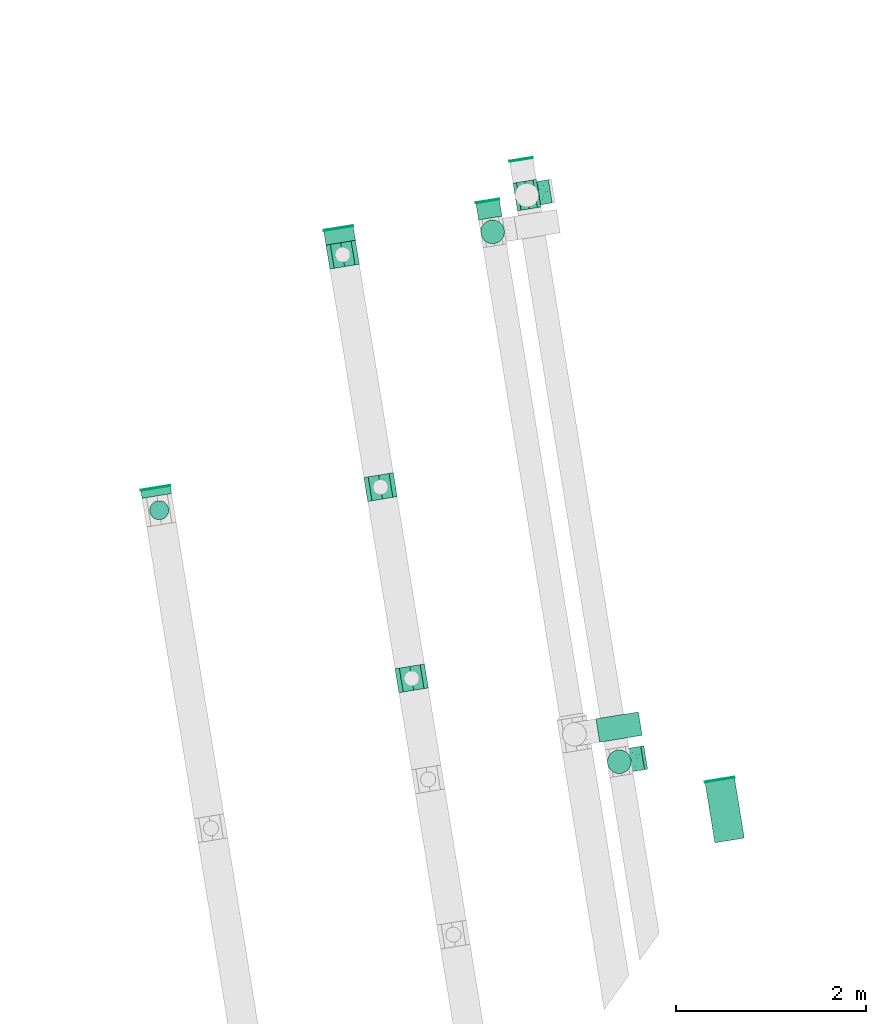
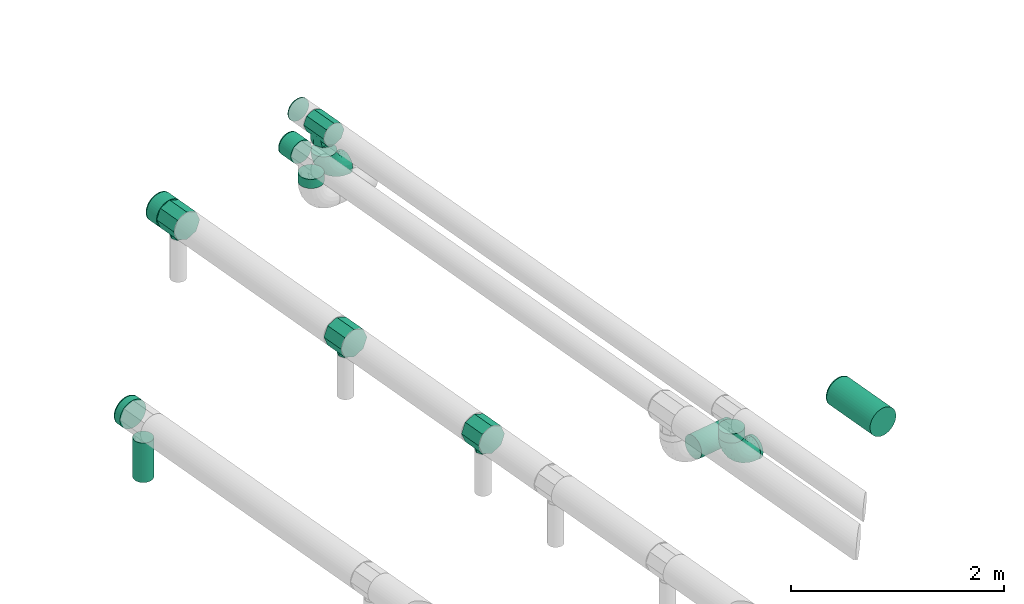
# One storey, part 4 of 15: 11 flow fittings, 9 flow segments.
"""IFC2X3 building model written with IfcOpenShell, lengths in millimetres."""

from ifc_helpers import new_model, entity, si_unit, converted_unit, derived_unit, direction, frame, frame_2d, origin, origin_with_axes, origin_2d_with_axis, place, context, subcontext, project, spatial, circle, extrude, faceted_brep, source, transform, mapped, material, type_object, element, save


model = new_model("IFC2X3")

# Units and contexts
model_context = context("Model", 3, precision=0.01, world=origin(), true_north=direction((6.12323399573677e-17, 1.0)))
plan_context = context("Plan", 3, precision=1e-05, world=origin_with_axes())
body_context = subcontext(model_context, "Body", "Model", "MODEL_VIEW")
ifc_project = project(units=[converted_unit("PLANEANGLEUNIT", "DEGREE", entity("IfcPositiveLengthMeasure", 0.0174532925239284), si_unit("PLANEANGLEUNIT", "RADIAN"), dimensions=[0, 0, 0, 0, 0, 0, 0]), si_unit("AREAUNIT", "SQUARE_METRE"), si_unit("LENGTHUNIT", "METRE", prefix="MILLI"), si_unit("MASSUNIT", "GRAM", prefix="KILO"), si_unit("POWERUNIT", "WATT"), si_unit("PRESSUREUNIT", "PASCAL", prefix="KILO"), si_unit("FORCEUNIT", "NEWTON", prefix="KILO"), si_unit("ELECTRICVOLTAGEUNIT", "VOLT"), si_unit("ELECTRICCURRENTUNIT", "AMPERE"), si_unit("THERMODYNAMICTEMPERATUREUNIT", "DEGREE_CELSIUS"), si_unit("TIMEUNIT", "SECOND"), si_unit("VOLUMEUNIT", "CUBIC_METRE"), derived_unit("LINEARVELOCITYUNIT", [(si_unit("LENGTHUNIT", "METRE"), 1), (si_unit("TIMEUNIT", "SECOND"), -1)]), derived_unit("VOLUMETRICFLOWRATEUNIT", [(si_unit("VOLUMEUNIT", "CUBIC_METRE"), 1), (si_unit("TIMEUNIT", "SECOND"), -1)]), derived_unit("THERMALTRANSMITTANCEUNIT", [(si_unit("POWERUNIT", "WATT"), 1), (si_unit("THERMODYNAMICTEMPERATUREUNIT", "KELVIN"), -1), (si_unit("AREAUNIT", "SQUARE_METRE"), -1)]), derived_unit("SOUNDPRESSUREUNIT", [(si_unit("PRESSUREUNIT", "PASCAL"), 1)])], contexts=[model_context, plan_context])

# Site, building, storey
site_placement = place(None, frame((5.09380697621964e-08, 5.80416781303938e-08, 0.0), z_axis=(0.0, 0.0, 1.0), x_axis=(-0.160806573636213, 0.986985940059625, 0.0)))
site = spatial("IfcSite", under=ifc_project, at=site_placement, Name="Default", CompositionType="ELEMENT")
building_placement = place(site_placement, frame((0.0, 0.0, 0.0), z_axis=(0.0, 0.0, 1.0), x_axis=(1.0, -2.77555756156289e-17, 0.0)))
building = spatial("IfcBuilding", under=site, at=building_placement, Name="Bygning (endres i Project Information)", CompositionType="ELEMENT")
storey_placement = place(building_placement, frame((0.0, 0.0, 51360.0000000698), z_axis=(0.0, 0.0, 1.0), x_axis=(1.0, -2.77555756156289e-17, 0.0)))
storey = spatial("IfcBuildingStorey", under=building, at=storey_placement, Name="H01-Nivå D+0,36", CompositionType="ELEMENT", Elevation=51360.0000000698)

# Flow fittings
ifc_material_1 = material(Name="DF_Material1")
duct_fitting_type_1 = type_object("IfcDuctFittingType", Name="Lindab ESU:ESU", PredefinedType="NOTDEFINED", material=ifc_material_1)
shared_shape_1 = source(origin(), body_context, "Body", "SweptSolid", [
    extrude(circle(Radius=157.500000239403, at=frame_2d((-1.65403839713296e-13, -7.58786676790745e-13), x_axis=(1.0, 0.0))), frame((0.0, 0.0, 0.0), z_axis=(1.0, 0.0, 0.0), x_axis=(0.0, 1.0, 0.0)), (0.0, 0.0, 1.0), 10.0000000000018),
])
for number, where, z_axis, x_axis in (
    (1, (1003365.29410685, -343179.24363092, 3804.40000000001), (0.0, 0.0, 1.0), (1.0, -2.77555756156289e-17, 0.0)),
    (2, (999369.903822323, -348560.31456289, 3804.40000000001), (0.0, 0.0, 1.0), (1.0, -2.77555756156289e-17, 0.0)),
    (3, (1005760.55890709, -345524.100723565, 3804.29489743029), (0.0, 0.0, 1.0), (1.0, -2.77555756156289e-17, 0.0)),
):
    element("IfcFlowFitting", number, at=place(storey_placement, frame(where, z_axis=z_axis, x_axis=x_axis)), inside=storey, type_object=duct_fitting_type_1, material=ifc_material_1, Name="Lindab ESU:ESU", ObjectType="Lindab ESU:ESU", context=body_context, shape_type="MappedRepresentation", body=[
        mapped(shared_shape_1, transform((0.0, 0.0, 0.0), scale=1.0)),
    ])
duct_fitting_type_2 = type_object("IfcDuctFittingType", Name="Lindab TCPU:TCPU", PredefinedType="NOTDEFINED", material=ifc_material_1)
shared_shape_2 = source(origin(), body_context, "Body", "Brep", [
    faceted_brep([(-97.5961175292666, 0.0, -125.000000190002), (-44.4919847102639, 44.4919847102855, -116.813797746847), (0.0, 0.0, -125.000000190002), (-116.363856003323, 116.363856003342, -45.6558108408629), (-148.0, 106.694173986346, -44.1941738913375), (-125.000000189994, 125.000000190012, 0.0), (-148.0, 0.0, -125.000000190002), (-148.0, 88.3883477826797, -88.3883477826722), (-85.4880923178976, 85.4880923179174, -91.1964150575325), (-148.0, 125.000000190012, 0.0), (148.0, 106.694173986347, -44.1941738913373), (125.000000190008, 125.000000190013, 0.0), (148.0, 125.000000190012, 0.0), (-148.0, 106.694173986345, 44.1941738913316), (-110.210392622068, 110.210392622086, 58.9802458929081), (-97.5961244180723, 0.0, 125.000000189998), (-48.798062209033, 0.0, 125.000000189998), (0.0, 0.0, 125.000000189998), (-33.5365138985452, 33.5365138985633, 120.417200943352), (148.0, 106.694173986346, 44.1941738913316), (-148.0, 88.3883477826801, 88.388347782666), (-75.8331549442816, 75.8331549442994, 99.3696767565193), (-148.0, 0.0, 125.000000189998), (0.0, 150.0, -125.000000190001), (-88.3883477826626, 150.0, -88.3883477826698), (-106.694173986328, 150.0, -44.1941738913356), (-125.000000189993, 150.0, 0.0), (-106.694173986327, 150.0, 44.1941738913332), (-88.3883477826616, 150.0, 88.3883477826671), (0.0, 150.0, 125.000000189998), (88.3883477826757, 150.0, 88.388347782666), (106.694173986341, 150.0, 44.1941738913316), (125.000000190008, 150.0, 0.0), (106.694173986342, 150.0, -44.1941738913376), (88.3883477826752, 150.0, -88.3883477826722), (0.0, 48.7980713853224, 125.000000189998), (0.0, 97.5961191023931, 125.000000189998), (0.0, 97.5961234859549, -125.000000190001), (0.0, 48.7980562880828, -125.000000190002), (33.5365138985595, 33.5365138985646, -120.417200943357), (110.210392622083, 110.210392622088, -58.9802458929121), (75.8331549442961, 75.8331549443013, -99.3696767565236), (116.363856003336, 116.363856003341, 45.6558108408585), (44.4919847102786, 44.4919847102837, 116.813797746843), (85.4880923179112, 85.4880923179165, 91.1964150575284), (-148.0, -88.3883477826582, -88.3883477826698), (-148.0, -125.000000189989, 0.0), (-148.0, -88.3883477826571, 88.3883477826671), (148.0, 88.3883477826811, 88.388347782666), (148.0, 0.0, 125.000000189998), (148.0, -88.3883477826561, 88.3883477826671), (148.0, -125.000000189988, 0.0), (148.0, -88.3883477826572, -88.3883477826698), (148.0, 0.0, -125.000000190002), (148.0, 88.3883477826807, -88.3883477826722), (97.5961165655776, 0.0, 125.000000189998), (48.7980576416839, 0.0, -125.000000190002), (97.5961133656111, 0.0, -125.000000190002)], [[[0, 1, 2]], [[3, 4, 5]], [[6, 7, 0]], [[7, 8, 0]], [[4, 9, 5]], [[10, 11, 12]], [[1, 0, 8]], [[3, 7, 4]], [[8, 7, 3]], [[5, 13, 14]], [[15, 16, 17, 18]], [[13, 5, 9]], [[19, 12, 11]], [[20, 21, 14]], [[21, 22, 15]], [[13, 20, 14]], [[20, 22, 21]], [[15, 18, 21]], [[23, 24, 25, 26, 27, 28, 29, 30, 31, 32, 33, 34]], [[35, 36, 18, 17]], [[14, 27, 5]], [[28, 21, 29]], [[21, 36, 29]], [[27, 26, 5]], [[18, 36, 21]], [[14, 28, 27]], [[21, 28, 14]], [[5, 25, 3]], [[1, 37, 38, 2]], [[25, 5, 26]], [[24, 8, 3]], [[37, 24, 23]], [[25, 24, 3]], [[8, 24, 37]], [[37, 1, 8]], [[38, 37, 39, 2]], [[40, 33, 11]], [[34, 41, 23]], [[41, 37, 23]], [[33, 32, 11]], [[39, 37, 41]], [[40, 34, 33]], [[41, 34, 40]], [[11, 31, 42]], [[43, 36, 35, 17]], [[31, 11, 32]], [[30, 44, 42]], [[36, 30, 29]], [[31, 30, 42]], [[44, 30, 36]], [[36, 43, 44]], [[6, 45, 46, 47, 22, 20, 13, 9, 4, 7]], [[12, 19, 48, 49, 50, 51, 52, 53, 54, 10]], [[47, 50, 49, 55, 17, 16, 15, 22]], [[46, 51, 50, 47]], [[46, 45, 52, 51]], [[52, 45, 6, 0, 2, 56, 57, 53]], [[57, 39, 41]], [[54, 53, 41]], [[56, 2, 39, 57]], [[41, 53, 57]], [[10, 54, 40]], [[11, 10, 40]], [[41, 40, 54]], [[42, 48, 19]], [[43, 55, 44]], [[42, 44, 48]], [[48, 44, 55]], [[49, 48, 55]], [[55, 43, 17]], [[42, 19, 11]]]),
])
flow_fitting_placement = place(storey_placement, frame((1005790.34874747, -347544.675938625, 3804.40000000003), z_axis=(-2.77555756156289e-17, -1.0, 0.0), x_axis=(-1.0, 2.77555756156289e-17, 0.0)))
element("IfcFlowFitting", 4, at=flow_fitting_placement, inside=storey, type_object=duct_fitting_type_2, material=ifc_material_1, Name="Lindab TCPU:TCPU", ObjectType="Lindab TCPU:TCPU", context=body_context, shape_type="MappedRepresentation", body=[
    mapped(shared_shape_2, transform((0.0, 0.0, 0.0), scale=1.0)),
])
ifc_material_2 = material(Name="3601.001 Tilluft")
duct_fitting_type_3 = type_object("IfcDuctFittingType", Name="magicirc_elbow_full_radius_NOR:magicirc_elbow_full_radius_NOR", PredefinedType="NOTDEFINED", material=ifc_material_2)
shared_shape_3 = source(origin(), body_context, "Body", "Brep", [
    faceted_brep([(-166.554650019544, 115.597967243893, 0.0), (-167.916018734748, 109.633421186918, -38.6271243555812), (-250.000000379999, 118.882064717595, -38.6271243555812), (-250.000000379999, 125.00000019, 0.0), (-171.866864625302, 92.3236343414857, -73.4731566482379), (-250.000000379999, 101.127124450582, -73.4731566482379), (-178.020451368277, 65.3630092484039, -101.127124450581), (-250.000000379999, 73.4731566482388, -101.127124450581), (-185.774423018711, 31.3906397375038, -118.882064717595), (-250.000000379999, 38.6271243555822, -118.882064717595), (-194.369766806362, -6.26802196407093, -125.00000019), (-250.000000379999, 0.0, -125.00000019), (-202.965110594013, -43.9266836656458, -118.882064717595), (-250.000000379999, -38.627124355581, -118.882064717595), (-210.719082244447, -77.8990531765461, -101.127124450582), (-250.000000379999, -73.4731566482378, -101.127124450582), (-216.872668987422, -104.859678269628, -73.4731566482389), (-250.000000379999, -101.127124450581, -73.4731566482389), (-220.823514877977, -122.169465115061, -38.6271243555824), (-250.000000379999, -118.882064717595, -38.6271243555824), (-222.184883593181, -128.134011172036, 0.0), (-250.000000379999, -125.00000019, 0.0), (-220.823514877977, -122.169465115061, 38.6271243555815), (-250.000000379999, -118.882064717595, 38.6271243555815), (-216.872668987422, -104.859678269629, 73.4731566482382), (-250.000000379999, -101.127124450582, 73.4731566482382), (-210.719082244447, -77.8990531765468, 101.127124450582), (-250.000000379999, -73.4731566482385, 101.127124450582), (-202.965110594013, -43.9266836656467, 118.882064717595), (-250.000000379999, -38.6271243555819, 118.882064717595), (-194.369766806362, -6.26802196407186, 125.00000019), (-250.000000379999, 0.0, 125.00000019), (-185.774423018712, 31.390639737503, 118.882064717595), (-250.000000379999, 38.6271243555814, 118.882064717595), (-178.020451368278, 65.3630092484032, 101.127124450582), (-250.000000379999, 73.4731566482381, 101.127124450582), (-171.866864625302, 92.3236343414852, 73.4731566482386), (-250.000000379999, 101.127124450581, 73.4731566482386), (-167.916018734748, 109.633421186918, 38.627124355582), (-250.000000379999, 118.882064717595, 38.627124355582), (-87.2935979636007, 87.8633255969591, 0.0), (-89.9480706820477, 82.3512562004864, -38.6271243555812), (-97.6516505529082, 66.3546077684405, -73.4731566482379), (-109.650257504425, 41.4392437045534, -101.127124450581), (-124.769384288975, 10.0440534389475, -118.882064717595), (-141.529065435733, -24.7577830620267, -125.00000019), (-158.288746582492, -59.5596195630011, -118.882064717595), (-173.407873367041, -90.9548098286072, -101.127124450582), (-185.406480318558, -115.870173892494, -73.4731566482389), (-193.110060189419, -131.866822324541, -38.6271243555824), (-195.764532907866, -137.378891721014, 0.0), (-193.110060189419, -131.866822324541, 38.6271243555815), (-185.406480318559, -115.870173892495, 73.4731566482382), (-173.407873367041, -90.9548098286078, 101.127124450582), (-158.288746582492, -59.5596195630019, 118.882064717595), (-141.529065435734, -24.7577830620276, 125.00000019), (-124.769384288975, 10.0440534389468, 118.882064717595), (-109.650257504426, 41.4392437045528, 101.127124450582), (-97.6516505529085, 66.35460776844, 73.4731566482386), (-89.9480706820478, 82.3512562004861, 38.627124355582), (-16.1913243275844, 43.1868059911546, 0.0), (-20.0057947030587, 38.4036114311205, -38.6271243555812), (-31.0758188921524, 24.5222401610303, -73.4731566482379), (-48.3177857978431, 2.9014975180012, -101.127124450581), (-70.0439315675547, -24.3422275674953, -118.882064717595), (-94.1275496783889, -54.5421294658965, -125.00000019), (-118.211167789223, -84.7420313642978, -118.882064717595), (-139.937313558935, -111.985756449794, -101.127124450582), (-157.179280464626, -133.606499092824, -73.4731566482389), (-168.24930465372, -147.487870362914, -38.6271243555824), (-172.063775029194, -152.271064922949, 0.0), (-168.24930465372, -147.487870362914, 38.6271243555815), (-157.179280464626, -133.606499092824, 73.4731566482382), (-139.937313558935, -111.985756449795, 101.127124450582), (-118.211167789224, -84.7420313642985, 118.882064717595), (-94.1275496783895, -54.5421294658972, 125.00000019), (-70.0439315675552, -24.3422275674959, 118.882064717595), (-48.3177857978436, 2.90149751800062, 101.127124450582), (-31.0758188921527, 24.5222401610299, 73.4731566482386), (-20.0057947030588, 38.4036114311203, 38.627124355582), (43.1868059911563, -16.1913243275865, 0.0), (38.4036114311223, -20.0057947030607, -38.6271243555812), (24.5222401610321, -31.0758188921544, -73.4731566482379), (2.90149751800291, -48.3177857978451, -101.127124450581), (-24.3422275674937, -70.0439315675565, -118.882064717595), (-54.542129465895, -94.1275496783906, -125.00000019), (-84.7420313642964, -118.211167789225, -118.882064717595), (-111.985756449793, -139.937313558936, -101.127124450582), (-133.606499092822, -157.179280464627, -73.4731566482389), (-147.487870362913, -168.249304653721, -38.6271243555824), (-152.271064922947, -172.063775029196, 0.0), (-147.487870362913, -168.249304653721, 38.6271243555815), (-133.606499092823, -157.179280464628, 73.4731566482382), (-111.985756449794, -139.937313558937, 101.127124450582), (-84.7420313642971, -118.211167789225, 118.882064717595), (-54.5421294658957, -94.1275496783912, 125.00000019), (-24.3422275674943, -70.043931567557, 118.882064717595), (2.90149751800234, -48.3177857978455, 101.127124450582), (24.5222401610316, -31.0758188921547, 73.4731566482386), (38.4036114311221, -20.0057947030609, 38.627124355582), (87.8633255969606, -87.2935979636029, 0.0), (82.3512562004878, -89.9480706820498, -38.6271243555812), (66.3546077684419, -97.6516505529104, -73.4731566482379), (41.4392437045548, -109.650257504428, -101.127124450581), (10.0440534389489, -124.769384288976, -118.882064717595), (-24.7577830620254, -141.529065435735, -125.00000019), (-59.5596195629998, -158.288746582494, -118.882064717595), (-90.954809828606, -173.407873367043, -101.127124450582), (-115.870173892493, -185.40648031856, -73.4731566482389), (-131.86682232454, -193.110060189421, -38.6271243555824), (-137.378891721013, -195.764532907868, 0.0), (-131.86682232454, -193.110060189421, 38.6271243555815), (-115.870173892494, -185.40648031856, 73.4731566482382), (-90.9548098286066, -173.407873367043, 101.127124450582), (-59.5596195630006, -158.288746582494, 118.882064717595), (-24.7577830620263, -141.529065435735, 125.00000019), (10.0440534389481, -124.769384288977, 118.882064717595), (41.4392437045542, -109.650257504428, 101.127124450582), (66.3546077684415, -97.6516505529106, 73.4731566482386), (82.3512562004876, -89.9480706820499, 38.627124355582), (115.597967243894, -166.554650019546, 0.0), (109.633421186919, -167.91601873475, -38.6271243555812), (92.3236343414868, -171.866864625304, -73.4731566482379), (65.363009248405, -178.02045136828, -101.127124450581), (31.3906397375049, -185.774423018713, -118.882064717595), (-6.26802196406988, -194.369766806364, -125.00000019), (-43.9266836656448, -202.965110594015, -118.882064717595), (-77.8990531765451, -210.719082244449, -101.127124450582), (-104.859678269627, -216.872668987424, -73.4731566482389), (-122.16946511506, -220.823514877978, -38.6271243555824), (-128.134011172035, -222.184883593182, 0.0), (-122.16946511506, -220.823514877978, 38.6271243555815), (-104.859678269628, -216.872668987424, 73.4731566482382), (-77.8990531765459, -210.719082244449, 101.127124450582), (-43.9266836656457, -202.965110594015, 118.882064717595), (-6.2680219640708, -194.369766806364, 125.00000019), (31.3906397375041, -185.774423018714, 118.882064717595), (65.3630092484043, -178.02045136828, 101.127124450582), (92.3236343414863, -171.866864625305, 73.4731566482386), (109.633421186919, -167.91601873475, 38.627124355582), (125.000000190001, -250.000000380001, 0.0), (118.882064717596, -250.000000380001, -38.6271243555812), (101.127124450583, -250.000000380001, -73.4731566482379), (73.4731566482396, -250.000000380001, -101.127124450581), (38.627124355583, -250.000000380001, -118.882064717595), (0.0, -250.000000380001, -125.00000019), (-38.6271243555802, -250.000000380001, -118.882064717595), (-73.473156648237, -250.000000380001, -101.127124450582), (-101.12712445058, -250.000000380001, -73.4731566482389), (-118.882064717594, -250.000000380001, -38.6271243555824), (-125.000000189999, -250.000000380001, 0.0), (-118.882064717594, -250.000000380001, 38.6271243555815), (-101.127124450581, -250.000000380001, 73.4731566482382), (-73.4731566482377, -250.000000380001, 101.127124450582), (-38.6271243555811, -250.000000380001, 118.882064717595), (0.0, -250.000000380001, 125.00000019), (38.6271243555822, -250.000000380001, 118.882064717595), (73.4731566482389, -250.000000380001, 101.127124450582), (101.127124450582, -250.000000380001, 73.4731566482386), (118.882064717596, -250.000000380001, 38.627124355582)], [[[0, 1, 2, 3]], [[1, 4, 5, 2]], [[4, 6, 7, 5]], [[6, 8, 9, 7]], [[8, 10, 11, 9]], [[10, 12, 13, 11]], [[12, 14, 15, 13]], [[14, 16, 17, 15]], [[16, 18, 19, 17]], [[18, 20, 21, 19]], [[20, 22, 23, 21]], [[22, 24, 25, 23]], [[24, 26, 27, 25]], [[26, 28, 29, 27]], [[28, 30, 31, 29]], [[30, 32, 33, 31]], [[32, 34, 35, 33]], [[34, 36, 37, 35]], [[36, 38, 39, 37]], [[38, 0, 3, 39]], [[40, 41, 1, 0]], [[41, 42, 4, 1]], [[42, 43, 6, 4]], [[43, 44, 8, 6]], [[44, 45, 10, 8]], [[45, 46, 12, 10]], [[46, 47, 14, 12]], [[47, 48, 16, 14]], [[48, 49, 18, 16]], [[49, 50, 20, 18]], [[50, 51, 22, 20]], [[51, 52, 24, 22]], [[52, 53, 26, 24]], [[53, 54, 28, 26]], [[54, 55, 30, 28]], [[55, 56, 32, 30]], [[56, 57, 34, 32]], [[57, 58, 36, 34]], [[58, 59, 38, 36]], [[59, 40, 0, 38]], [[60, 61, 41, 40]], [[61, 62, 42, 41]], [[62, 63, 43, 42]], [[63, 64, 44, 43]], [[64, 65, 45, 44]], [[65, 66, 46, 45]], [[66, 67, 47, 46]], [[67, 68, 48, 47]], [[68, 69, 49, 48]], [[69, 70, 50, 49]], [[70, 71, 51, 50]], [[71, 72, 52, 51]], [[72, 73, 53, 52]], [[73, 74, 54, 53]], [[74, 75, 55, 54]], [[75, 76, 56, 55]], [[76, 77, 57, 56]], [[77, 78, 58, 57]], [[78, 79, 59, 58]], [[79, 60, 40, 59]], [[80, 81, 61, 60]], [[81, 82, 62, 61]], [[82, 83, 63, 62]], [[83, 84, 64, 63]], [[84, 85, 65, 64]], [[85, 86, 66, 65]], [[86, 87, 67, 66]], [[87, 88, 68, 67]], [[88, 89, 69, 68]], [[89, 90, 70, 69]], [[90, 91, 71, 70]], [[91, 92, 72, 71]], [[92, 93, 73, 72]], [[93, 94, 74, 73]], [[94, 95, 75, 74]], [[95, 96, 76, 75]], [[96, 97, 77, 76]], [[97, 98, 78, 77]], [[98, 99, 79, 78]], [[99, 80, 60, 79]], [[100, 101, 81, 80]], [[101, 102, 82, 81]], [[102, 103, 83, 82]], [[103, 104, 84, 83]], [[104, 105, 85, 84]], [[105, 106, 86, 85]], [[106, 107, 87, 86]], [[107, 108, 88, 87]], [[108, 109, 89, 88]], [[109, 110, 90, 89]], [[110, 111, 91, 90]], [[111, 112, 92, 91]], [[112, 113, 93, 92]], [[113, 114, 94, 93]], [[114, 115, 95, 94]], [[115, 116, 96, 95]], [[116, 117, 97, 96]], [[117, 118, 98, 97]], [[118, 119, 99, 98]], [[119, 100, 80, 99]], [[120, 121, 101, 100]], [[121, 122, 102, 101]], [[122, 123, 103, 102]], [[123, 124, 104, 103]], [[124, 125, 105, 104]], [[125, 126, 106, 105]], [[126, 127, 107, 106]], [[127, 128, 108, 107]], [[128, 129, 109, 108]], [[129, 130, 110, 109]], [[130, 131, 111, 110]], [[131, 132, 112, 111]], [[132, 133, 113, 112]], [[133, 134, 114, 113]], [[134, 135, 115, 114]], [[135, 136, 116, 115]], [[136, 137, 117, 116]], [[137, 138, 118, 117]], [[138, 139, 119, 118]], [[139, 120, 100, 119]], [[140, 141, 121, 120]], [[141, 142, 122, 121]], [[142, 143, 123, 122]], [[143, 144, 124, 123]], [[144, 145, 125, 124]], [[145, 146, 126, 125]], [[146, 147, 127, 126]], [[147, 148, 128, 127]], [[148, 149, 129, 128]], [[149, 150, 130, 129]], [[150, 151, 131, 130]], [[151, 152, 132, 131]], [[152, 153, 133, 132]], [[153, 154, 134, 133]], [[154, 155, 135, 134]], [[155, 156, 136, 135]], [[156, 157, 137, 136]], [[157, 158, 138, 137]], [[158, 159, 139, 138]], [[159, 140, 120, 139]], [[3, 2, 5, 7, 9, 11, 13, 15, 17, 19, 21, 23, 25, 27, 29, 31, 33, 35, 37, 39]], [[159, 158, 157, 156, 155, 154, 153, 152, 151, 150, 149, 148, 147, 146, 145, 144, 143, 142, 141, 140]]]),
])
for number, where, z_axis, x_axis, name in (
    (5, (1005790.34874747, -347544.675938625, 3300.0), (1.0, -2.77555756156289e-17, 0.0), (0.0, 0.0, -1.0), "magicirc_elbow_full_radius_NOR:magicirc_elbow_full_radius_NOR"),
    (6, (999731.859892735, -347544.675938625, 3300.0), (1.0, -2.77555756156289e-17, 0.0), (0.0, 0.0, -1.0), "magicirc_elbow_full_radius_NOR:magicirc_elbow_full_radius_NOR"),
):
    element("IfcFlowFitting", number, at=place(storey_placement, frame(where, z_axis=z_axis, x_axis=x_axis)), inside=storey, type_object=duct_fitting_type_3, material=ifc_material_2, Name=name, ObjectType="magicirc_elbow_full_radius_NOR:magicirc_elbow_full_radius_NOR", context=body_context, shape_type="MappedRepresentation", body=[
        mapped(shared_shape_3, transform((0.0, 0.0, 0.0), scale=1.0)),
    ])
duct_fitting_type_4 = type_object("IfcDuctFittingType", Name="Lindab ESU:ESU", PredefinedType="NOTDEFINED", material=ifc_material_1)
shared_shape_4 = source(origin(), body_context, "Body", "SweptSolid", [
    extrude(circle(Radius=125.000000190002, at=frame_2d((-2.83842431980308e-13, -6.44578034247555e-13), x_axis=(1.0, 0.0))), frame((0.0, 0.0, 0.0), z_axis=(1.0, 0.0, 0.0), x_axis=(0.0, 1.0, 0.0)), (0.0, 0.0, 1.0), 10.0000000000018),
])
for number, where, z_axis, x_axis in (
    (7, (1006165.86472922, -347544.675938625, 3804.40000000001), (0.0, 0.0, 1.0), (1.0, -2.77555756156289e-17, 0.0)),
    (8, (1005790.34874747, -347124.100724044, 3804.29489743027), (0.0, 0.0, 1.0), (1.0, -2.77555756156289e-17, 0.0)),
):
    element("IfcFlowFitting", number, at=place(storey_placement, frame(where, z_axis=z_axis, x_axis=x_axis)), inside=storey, type_object=duct_fitting_type_4, material=ifc_material_1, Name="Lindab ESU:ESU", ObjectType="Lindab ESU:ESU", context=body_context, shape_type="MappedRepresentation", body=[
        mapped(shared_shape_4, transform((0.0, 0.0, 0.0), scale=1.0)),
    ])
duct_fitting_type_5 = type_object("IfcDuctFittingType", Name="Lindab TCPU:TCPU", PredefinedType="NOTDEFINED", material=ifc_material_1)
shared_shape_5 = source(origin(), body_context, "Body", "Brep", [
    faceted_brep([(80.0000001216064, -182.0, 0.0), (56.5685425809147, -182.0, 56.5685425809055), (0.0, -182.0, 80.0000001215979), (-56.5685425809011, -182.0, 56.5685425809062), (-80.0000001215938, -182.0, 0.0), (-56.568542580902, -182.0, -56.5685425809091), (0.0, -182.0, -80.0000001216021), (56.568542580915, -182.0, -56.568542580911), (-61.1652823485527, -148.820166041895, 51.5636330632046), (0.0, -135.66963571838, 80.0000001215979), (-80.0000001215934, -157.500000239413, 0.0), (-51.4607662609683, -145.101552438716, -61.2518534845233), (0.0, -135.669635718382, -80.0000001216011), (61.1652823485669, -148.820166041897, -51.5636330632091), (80.0000001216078, -157.500000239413, 0.0), (51.4669231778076, -145.103736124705, 61.2466802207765), (-128.0, -157.500000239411, 0.0), (-128.0, -134.434659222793, 55.6846591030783), (-128.0, -111.369318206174, 111.36931820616), (-128.0, 0.0, 157.500000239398), (-128.0, 111.369318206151, 111.369318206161), (-128.0, 157.500000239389, 0.0), (-128.0, 111.369318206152, -111.369318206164), (-128.0, 0.0, -157.500000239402), (-128.0, -111.369318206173, -111.369318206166), (-128.0, -134.434659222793, -55.6846591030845), (128.0, 0.0, -157.500000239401), (128.0, 111.369318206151, -111.369318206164), (128.0, 157.500000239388, 0.0), (128.0, 111.36931820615, 111.369318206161), (128.0, 0.0, 157.500000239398), (128.0, -111.369318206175, 111.36931820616), (128.0, -134.434659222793, 55.6846591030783), (128.0, -157.500000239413, 0.0), (128.0, -134.434659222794, -55.6846591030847), (128.0, -111.369318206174, -111.369318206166)], [[[0, 1, 2, 3, 4, 5, 6, 7]], [[2, 8, 3]], [[8, 2, 9]], [[10, 4, 3]], [[10, 3, 8]], [[10, 5, 4]], [[5, 10, 11]], [[11, 12, 6]], [[11, 6, 5]], [[6, 13, 7]], [[13, 6, 12]], [[14, 0, 7]], [[14, 7, 13]], [[14, 1, 0]], [[1, 14, 15]], [[15, 9, 2]], [[15, 2, 1]], [[16, 17, 18, 19, 20, 21, 22, 23, 24, 25]], [[26, 27, 28, 29, 30, 31, 32, 33, 34, 35]], [[20, 19, 30, 29]], [[29, 28, 21, 20]], [[28, 27, 22, 21]], [[27, 26, 23, 22]], [[26, 35, 24, 23]], [[24, 35, 12]], [[24, 12, 11]], [[35, 13, 12]], [[13, 33, 14]], [[33, 13, 35, 34]], [[10, 16, 25]], [[11, 25, 24]], [[10, 25, 11]], [[14, 32, 15]], [[16, 10, 8]], [[16, 8, 18, 17]], [[33, 32, 14]], [[9, 15, 31]], [[31, 15, 32]], [[19, 18, 31, 30]], [[31, 18, 9]], [[18, 8, 9]]]),
])
for number, where, z_axis, x_axis in (
    (9, (1000952.55890709, -345524.100723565, 3804.29489743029), (2.77555756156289e-17, 1.0, 0.0), (-1.0, 2.77555756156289e-17, 0.0)),
    (10, (1002997.55890709, -345524.100723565, 3804.29489743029), (2.77555756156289e-17, 1.0, 0.0), (-1.0, 2.77555756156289e-17, 0.0)),
    (11, (1005482.55890709, -345524.100723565, 3804.29489743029), (2.77555756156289e-17, 1.0, 0.0), (-1.0, 2.77555756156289e-17, 0.0)),
):
    element("IfcFlowFitting", number, at=place(storey_placement, frame(where, z_axis=z_axis, x_axis=x_axis)), inside=storey, type_object=duct_fitting_type_5, material=ifc_material_1, Name="Lindab TCPU:TCPU", ObjectType="Lindab TCPU:TCPU", context=body_context, shape_type="MappedRepresentation", body=[
        mapped(shared_shape_5, transform((0.0, 0.0, 0.0), scale=1.0)),
    ])

# Flow segments
duct_segment_type = type_object("IfcDuctSegmentType", Name="Round Duct:Sirkulær kanal", PredefinedType="NOTDEFINED", material=ifc_material_2)
flow_segment_1_placement = place(storey_placement, frame((0.0, 0.0, 0.0), z_axis=(0.0, 0.0, 1.0), x_axis=(1.0, -2.77555756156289e-17, 0.0)))
element("IfcFlowSegment", 12, at=flow_segment_1_placement, inside=storey, type_object=duct_segment_type, Name="Round Duct:Sirkulær kanal", ObjectType="Round Duct:Sirkulær kanal", context=body_context, shape_type="SweptSolid", body=[
    extrude(circle(Radius=157.5000002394, at=origin_2d_with_axis()), frame((1003284.85989301, -343179.24363092, 3804.40000000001), z_axis=(1.0, 0.0, 0.0), x_axis=(0.0, -1.0, 0.0)), (0.0, 0.0, 1.0), 80.4342138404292),
])
flow_segment_2_placement = place(storey_placement, frame((0.0, 0.0, 0.0), z_axis=(0.0, 0.0, 1.0), x_axis=(1.0, -2.77555756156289e-17, 0.0)))
element("IfcFlowSegment", 13, at=flow_segment_2_placement, inside=storey, type_object=duct_segment_type, Name="Round Duct:Sirkulær kanal", ObjectType="Round Duct:Sirkulær kanal", context=body_context, shape_type="SweptSolid", body=[
    extrude(circle(Radius=100.000000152, at=origin_2d_with_axis()), frame((1003131.85989301, -343179.24363092, 3169.99999996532), z_axis=(0.0, 0.0, 1.0), x_axis=(0.0, 1.0, 0.0)), (0.0, 0.0, 1.0), 452.400000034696),
])
flow_segment_3_placement = place(storey_placement, frame((0.0, 0.0, 0.0), z_axis=(0.0, 0.0, 1.0), x_axis=(1.0, -2.77555756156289e-17, 0.0)))
element("IfcFlowSegment", 14, at=flow_segment_3_placement, inside=storey, type_object=duct_segment_type, Name="Round Duct:Sirkulær kanal", ObjectType="Round Duct:Sirkulær kanal", context=body_context, shape_type="SweptSolid", body=[
    extrude(circle(Radius=125.00000019, at=origin_2d_with_axis()), frame((999731.859892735, -347544.675938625, 3550.00000038), z_axis=(0.0, 0.0, 1.0), x_axis=(0.0, 1.0, 0.0)), (0.0, 0.0, 1.0), 104.399999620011),
])
flow_segment_4_placement = place(storey_placement, frame((0.0, 0.0, 0.0), z_axis=(0.0, 0.0, 1.0), x_axis=(1.0, -2.77555756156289e-17, 0.0)))
element("IfcFlowSegment", 15, at=flow_segment_4_placement, inside=storey, type_object=duct_segment_type, Name="Round Duct:Sirkulær kanal", ObjectType="Round Duct:Sirkulær kanal", context=body_context, shape_type="SweptSolid", body=[
    extrude(circle(Radius=125.00000019, at=origin_2d_with_axis()), frame((999731.859892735, -347827.885608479, 3300.0), z_axis=(0.0, 1.0, 0.0), x_axis=(-1.0, 0.0, 0.0)), (0.0, 0.0, 1.0), 33.2096694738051),
])
flow_segment_5_placement = place(storey_placement, frame((0.0, 0.0, 0.0), z_axis=(0.0, 0.0, 1.0), x_axis=(1.0, -2.77555756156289e-17, 0.0)))
element("IfcFlowSegment", 16, at=flow_segment_5_placement, inside=storey, type_object=duct_segment_type, Name="Round Duct:Sirkulær kanal", ObjectType="Round Duct:Sirkulær kanal", context=body_context, shape_type="SweptSolid", body=[
    extrude(circle(Radius=157.5000002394, at=origin_2d_with_axis()), frame((998724.903822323, -348560.31456289, 3804.4), z_axis=(1.0, 0.0, 0.0), x_axis=(0.0, -1.0, 0.0)), (0.0, 0.0, 1.0), 644.99999999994),
])
flow_segment_6_placement = place(storey_placement, frame((0.0, 0.0, 0.0), z_axis=(0.0, 0.0, 1.0), x_axis=(1.0, -2.77555756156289e-17, 0.0)))
element("IfcFlowSegment", 17, at=flow_segment_6_placement, inside=storey, type_object=duct_segment_type, Name="Round Duct:Sirkulær kanal", ObjectType="Round Duct:Sirkulær kanal", context=body_context, shape_type="SweptSolid", body=[
    extrude(circle(Radius=157.5000002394, at=origin_2d_with_axis()), frame((1005610.55890709, -345524.100723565, 3804.29489743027), z_axis=(1.0, 0.0, 0.0), x_axis=(0.0, -1.0, 0.0)), (0.0, 0.0, 1.0), 149.999999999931),
])
flow_segment_7_placement = place(storey_placement, frame((0.0, 0.0, 0.0), z_axis=(0.0, 0.0, 1.0), x_axis=(1.0, -2.77555756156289e-17, 0.0)))
element("IfcFlowSegment", 18, at=flow_segment_7_placement, inside=storey, type_object=duct_segment_type, Name="Round Duct:Sirkulær kanal", ObjectType="Round Duct:Sirkulær kanal", context=body_context, shape_type="SweptSolid", body=[
    extrude(circle(Radius=125.00000019, at=origin_2d_with_axis()), frame((1000093.18735498, -347827.885608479, 3300.0), z_axis=(0.0, 1.0, 0.0), x_axis=(-1.0, 0.0, 0.0)), (0.0, 0.0, 1.0), 453.784884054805),
])
flow_segment_8_placement = place(storey_placement, frame((0.0, 0.0, 0.0), z_axis=(0.0, 0.0, 1.0), x_axis=(1.0, -2.77555756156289e-17, 0.0)))
element("IfcFlowSegment", 19, at=flow_segment_8_placement, inside=storey, type_object=duct_segment_type, Name="Round Duct:Sirkulær kanal", ObjectType="Round Duct:Sirkulær kanal", context=body_context, shape_type="SweptSolid", body=[
    extrude(circle(Radius=125.00000019, at=origin_2d_with_axis()), frame((1005465.68748115, -347124.100724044, 3550.00000038), z_axis=(0.0, 0.0, 1.0), x_axis=(0.0, 1.0, 0.0)), (0.0, 0.0, 1.0), 104.294897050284),
])
flow_segment_9_placement = place(storey_placement, frame((0.0, 0.0, 0.0), z_axis=(0.0, 0.0, 1.0), x_axis=(1.0, -2.77555756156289e-17, 0.0)))
element("IfcFlowSegment", 20, at=flow_segment_9_placement, inside=storey, type_object=duct_segment_type, Name="Round Duct:Sirkulær kanal", ObjectType="Round Duct:Sirkulær kanal", context=body_context, shape_type="SweptSolid", body=[
    extrude(circle(Radius=125.00000019, at=origin_2d_with_axis()), frame((1005613.68748115, -347124.100724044, 3804.29489743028), z_axis=(1.0, 0.0, 0.0), x_axis=(0.0, -1.0, 0.0)), (0.0, 0.0, 1.0), 176.661266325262),
])

save(model, "model.ifc")
